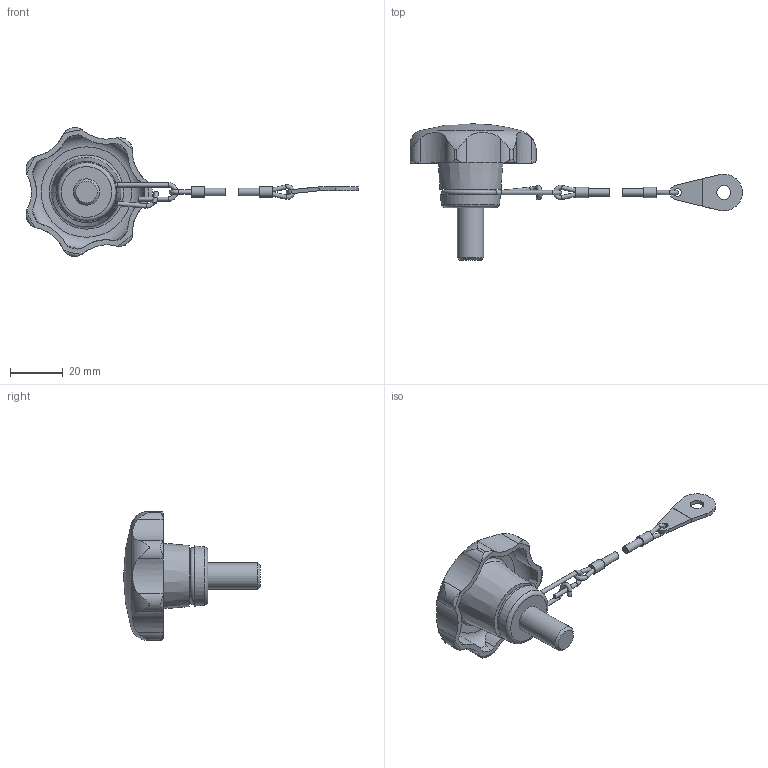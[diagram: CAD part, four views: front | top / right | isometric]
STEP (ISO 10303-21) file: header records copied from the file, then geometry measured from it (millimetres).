
FILE_DESCRIPTION( ( 'STEP AP203' ), '1' );
FILE_NAME( 'C:/Temp/Ganter_Step_05_03_2020/data/2_2/gn_6336_13/gn_6336_13_2/Star knob GN 6336.13-50-M10-20-H.stp', '2020-03-05T12:11:45', ( 'License CC BY-ND 4.0' ), ( 'CADENAS' ), ' ', 'PARTsolutions', ' ' );
FILE_SCHEMA( ( 'CONFIG_CONTROL_DESIGN' ) );
Length unit declared in the file: millimetre
Products named in the file (3): Star knob GN 6336.13-50-M10-20-H; _Star knob GN 6336.13-50-M10-20-H 6; _Star knob GN 111.2-200-14 h2
Assembly tree (2 placements, depth 2):
  Star knob GN 6336.13-50-M10-20-H
    _Star knob GN 6336.13-50-M10-20-H 6
    _Star knob GN 111.2-200-14 h2
Bounding box: 126.27 x 52 x 48.99 mm (x, y, z)
Volume: 24812.9 mm3; surface area: 10074.7 mm2
Topology: 2 solids, 2 shells, 133 faces, 361 edges, 233 vertices
Faces by surface type: cylinder 67, plane 34, torus 20, cone 11, sphere 1
Full cylindrical faces by diameter (mm): 1.6 x10, 3 x3, 4 x2, 5.3 x1, 10 x1, 18.5 x1
Entity records: 4840 total; most frequent: CARTESIAN_POINT 1623, DIRECTION 650, ORIENTED_EDGE 612, EDGE_CURVE 306, AXIS2_PLACEMENT_3D 280, VERTEX_POINT 221, EDGE_LOOP 184, FACE_OUTER_BOUND 163
